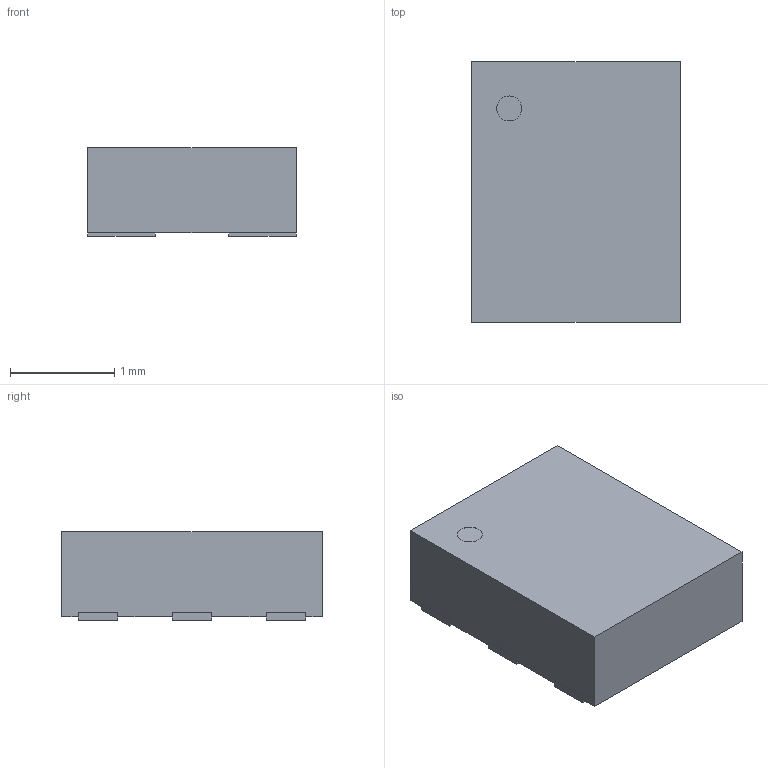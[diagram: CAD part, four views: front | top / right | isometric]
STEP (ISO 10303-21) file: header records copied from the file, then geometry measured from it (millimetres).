
FILE_DESCRIPTION(('Open CASCADE Model'),'2;1');
FILE_NAME('Open CASCADE Shape Model','2026-10-04T11:29:43',('Author'),( 'Open CASCADE'),'Open CASCADE STEP processor 7.9','Open CASCADE 7.9' ,'Unknown');
FILE_SCHEMA(('AUTOMOTIVE_DESIGN { 1 0 10303 214 1 1 1 1 }'));
Length unit declared in the file: millimetre
Products named in the file (4): SiTime_SiT9396_PQFW006_C02520_Nominal; package_body; terminals; illustrative_pin1_index
Assembly tree (3 placements, depth 2):
  SiTime_SiT9396_PQFW006_C02520_Nominal
    package_body
    terminals
    illustrative_pin1_index
Bounding box: 2 x 2.5 x 0.85 mm (x, y, z)
Volume: 4.1 mm3; surface area: 21.6 mm2
Topology: 8 solids, 8 shells, 71 faces, 162 edges, 108 vertices
Faces by surface type: plane 69, cylinder 2
Full cylindrical faces by diameter (mm): 0.24 x2
Entity records: 4142 total; most frequent: CARTESIAN_POINT 705, DIRECTION 604, LINE 442, VECTOR 442, ORIENTED_EDGE 324, PCURVE 324, DEFINITIONAL_REPRESENTATION 324, EDGE_CURVE 162
